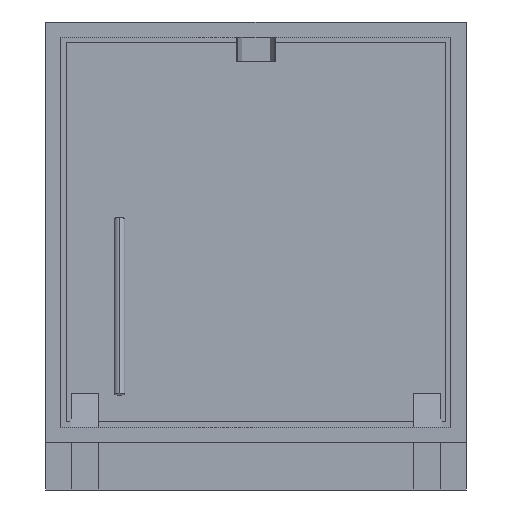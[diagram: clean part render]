
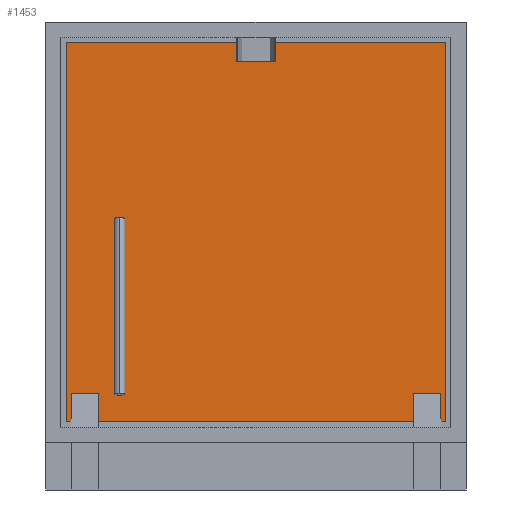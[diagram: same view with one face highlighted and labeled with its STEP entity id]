
A CAD part, front view. The second image highlights one B-rep face of the part: STEP entity #1453.
In plain terms, the highlighted planar face has unit normal (0, -1, 0).
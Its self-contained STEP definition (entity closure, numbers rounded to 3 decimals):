
#242=CARTESIAN_POINT('',(0.,-66.,465.));
#243=DIRECTION('',(0.,1.,0.));
#244=DIRECTION('',(1.,0.,0.));
#245=AXIS2_PLACEMENT_3D('',#242,#243,#244);
#247=CARTESIAN_POINT('',(0.,-66.,465.));
#248=DIRECTION('',(0.,1.,0.));
#249=DIRECTION('',(0.641,0.,0.768));
#250=AXIS2_PLACEMENT_3D('',#247,#248,#249);
#252=DIRECTION('',(-1.,0.,0.));
#253=VECTOR('',#252,468.563);
#254=CARTESIAN_POINT('',(486.5,-66.,486.5));
#255=LINE('',#254,#253);
#256=DIRECTION('',(0.,0.,1.));
#257=VECTOR('',#256,973.);
#258=CARTESIAN_POINT('',(486.5,-66.,-486.5));
#259=LINE('',#258,#257);
#260=DIRECTION('',(1.,0.,0.));
#261=VECTOR('',#260,12.5);
#262=CARTESIAN_POINT('',(474.,-66.,-486.5));
#263=LINE('',#262,#261);
#264=DIRECTION('',(1.,0.,0.));
#265=VECTOR('',#264,808.);
#266=CARTESIAN_POINT('',(-404.,-66.,-486.5));
#267=LINE('',#266,#265);
#268=DIRECTION('',(1.,0.,0.));
#269=VECTOR('',#268,12.5);
#270=CARTESIAN_POINT('',(-486.5,-66.,-486.5));
#271=LINE('',#270,#269);
#272=DIRECTION('',(0.,0.,-1.));
#273=VECTOR('',#272,973.);
#274=CARTESIAN_POINT('',(-486.5,-66.,486.5));
#275=LINE('',#274,#273);
#276=DIRECTION('',(-1.,0.,0.));
#277=VECTOR('',#276,468.563);
#278=CARTESIAN_POINT('',(-17.937,-66.,486.5));
#279=LINE('',#278,#277);
#280=CARTESIAN_POINT('',(0.,-66.,465.));
#281=DIRECTION('',(0.,1.,0.));
#282=DIRECTION('',(-1.,0.,0.));
#283=AXIS2_PLACEMENT_3D('',#280,#281,#282);
#319=DIRECTION('',(0.,0.,-1.));
#320=VECTOR('',#319,73.425);
#321=CARTESIAN_POINT('',(-474.,-66.,-413.075));
#322=LINE('',#321,#320);
#331=DIRECTION('',(1.,0.,0.));
#332=VECTOR('',#331,70.);
#333=CARTESIAN_POINT('',(-474.,-66.,-413.075));
#334=LINE('',#333,#332);
#335=DIRECTION('',(1.,0.,0.));
#336=VECTOR('',#335,70.);
#337=CARTESIAN_POINT('',(404.,-66.,-413.075));
#338=LINE('',#337,#336);
#339=DIRECTION('',(0.,0.,-1.));
#340=VECTOR('',#339,73.425);
#341=CARTESIAN_POINT('',(-404.,-66.,-413.075));
#342=LINE('',#341,#340);
#911=DIRECTION('',(0.,0.,-1.));
#912=VECTOR('',#911,73.425);
#913=CARTESIAN_POINT('',(474.,-66.,-413.075));
#914=LINE('',#913,#912);
#923=DIRECTION('',(0.,0.,-1.));
#924=VECTOR('',#923,73.425);
#925=CARTESIAN_POINT('',(404.,-66.,-413.075));
#926=LINE('',#925,#924);
#1041=CARTESIAN_POINT('',(-486.5,-66.,486.5));
#1042=CARTESIAN_POINT('',(-486.5,-66.,-486.5));
#1043=VERTEX_POINT('',#1041);
#1044=VERTEX_POINT('',#1042);
#1045=CARTESIAN_POINT('',(486.5,-66.,-486.5));
#1046=CARTESIAN_POINT('',(486.5,-66.,486.5));
#1047=VERTEX_POINT('',#1045);
#1048=VERTEX_POINT('',#1046);
#1079=CARTESIAN_POINT('',(28.,-66.,465.));
#1080=CARTESIAN_POINT('',(-28.,-66.,465.));
#1081=VERTEX_POINT('',#1079);
#1082=VERTEX_POINT('',#1080);
#1083=CARTESIAN_POINT('',(-17.937,-66.,486.5));
#1084=VERTEX_POINT('',#1083);
#1085=CARTESIAN_POINT('',(17.937,-66.,486.5));
#1086=VERTEX_POINT('',#1085);
#1137=CARTESIAN_POINT('',(-404.,-66.,-413.075));
#1138=CARTESIAN_POINT('',(-404.,-66.,-486.5));
#1139=VERTEX_POINT('',#1137);
#1140=VERTEX_POINT('',#1138);
#1141=CARTESIAN_POINT('',(404.,-66.,-413.075));
#1142=CARTESIAN_POINT('',(404.,-66.,-486.5));
#1143=VERTEX_POINT('',#1141);
#1144=VERTEX_POINT('',#1142);
#1145=CARTESIAN_POINT('',(-474.,-66.,-486.5));
#1146=VERTEX_POINT('',#1145);
#1219=CARTESIAN_POINT('',(-474.,-66.,-413.075));
#1220=VERTEX_POINT('',#1219);
#1221=CARTESIAN_POINT('',(474.,-66.,-413.075));
#1222=VERTEX_POINT('',#1221);
#1223=CARTESIAN_POINT('',(474.,-66.,-486.5));
#1224=VERTEX_POINT('',#1223);
#1417=CARTESIAN_POINT('',(0.,-66.,0.));
#1418=DIRECTION('',(0.,-1.,0.));
#1419=DIRECTION('',(1.,0.,0.));
#1420=AXIS2_PLACEMENT_3D('',#1417,#1418,#1419);
#1421=PLANE('',#1420);
#1423=ORIENTED_EDGE('',*,*,#1422,.F.);
#1424=ORIENTED_EDGE('',*,*,#1406,.F.);
#1426=ORIENTED_EDGE('',*,*,#1425,.F.);
#1427=ORIENTED_EDGE('',*,*,#1234,.F.);
#1429=ORIENTED_EDGE('',*,*,#1428,.F.);
#1431=ORIENTED_EDGE('',*,*,#1430,.F.);
#1433=ORIENTED_EDGE('',*,*,#1432,.F.);
#1435=ORIENTED_EDGE('',*,*,#1434,.T.);
#1437=ORIENTED_EDGE('',*,*,#1436,.F.);
#1439=ORIENTED_EDGE('',*,*,#1438,.F.);
#1441=ORIENTED_EDGE('',*,*,#1440,.F.);
#1443=ORIENTED_EDGE('',*,*,#1442,.T.);
#1445=ORIENTED_EDGE('',*,*,#1444,.F.);
#1447=ORIENTED_EDGE('',*,*,#1446,.F.);
#1449=ORIENTED_EDGE('',*,*,#1448,.F.);
#1450=ORIENTED_EDGE('',*,*,#1399,.F.);
#1451=EDGE_LOOP('',(#1423,#1424,#1426,#1427,#1429,#1431,#1433,#1435,#1437,#1439,
#1441,#1443,#1445,#1447,#1449,#1450));
#1452=FACE_OUTER_BOUND('',#1451,.F.);
#246=CIRCLE('',#245,28.);
#251=CIRCLE('',#250,28.);
#284=CIRCLE('',#283,28.);
#1234=EDGE_CURVE('',#1047,#1048,#259,.T.);
#1399=EDGE_CURVE('',#1082,#1084,#284,.T.);
#1406=EDGE_CURVE('',#1086,#1081,#251,.T.);
#1422=EDGE_CURVE('',#1081,#1082,#246,.T.);
#1425=EDGE_CURVE('',#1048,#1086,#255,.T.);
#1428=EDGE_CURVE('',#1224,#1047,#263,.T.);
#1430=EDGE_CURVE('',#1222,#1224,#914,.T.);
#1432=EDGE_CURVE('',#1143,#1222,#338,.T.);
#1434=EDGE_CURVE('',#1143,#1144,#926,.T.);
#1436=EDGE_CURVE('',#1140,#1144,#267,.T.);
#1438=EDGE_CURVE('',#1139,#1140,#342,.T.);
#1440=EDGE_CURVE('',#1220,#1139,#334,.T.);
#1442=EDGE_CURVE('',#1220,#1146,#322,.T.);
#1444=EDGE_CURVE('',#1044,#1146,#271,.T.);
#1446=EDGE_CURVE('',#1043,#1044,#275,.T.);
#1448=EDGE_CURVE('',#1084,#1043,#279,.T.);
#1453=ADVANCED_FACE('',(#1452),#1421,.T.);
